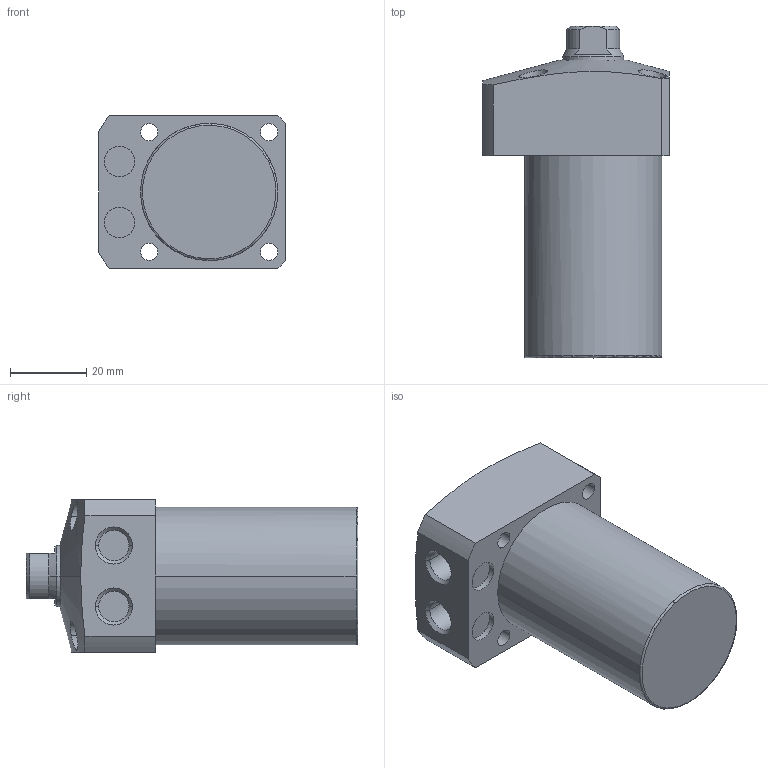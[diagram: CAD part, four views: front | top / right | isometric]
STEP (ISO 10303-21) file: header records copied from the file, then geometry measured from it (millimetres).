
FILE_DESCRIPTION((' '),'2;1');
FILE_NAME( 'TLL-036CA-045.STEP.stp', '2025-10-24T16:39:37', (' '), ('--- Datakit www.datakit.com---'), ' Datakit CrossCadWare V2024.1 Dec 21 2023', 'Mastercam 2025', ' ');
FILE_SCHEMA(('AUTOMOTIVE_DESIGN { 1 0 10303 214 1 1 1 1 }'));
Length unit declared in the file: millimetre
Products named in the file (1): TLL-036CA-045
Bounding box: 49 x 87 x 40 mm (x, y, z)
Volume: 95389.9 mm3; surface area: 16169.7 mm2
Topology: 1 solids, 1 shells, 72 faces, 209 edges, 148 vertices
Faces by surface type: cylinder 34, plane 22, cone 14, torus 2
Entity records: 4844 total; most frequent: CARTESIAN_POINT 2840, DIRECTION 430, ORIENTED_EDGE 414, EDGE_CURVE 207, AXIS2_PLACEMENT_3D 184, VERTEX_POINT 148, CIRCLE 111, EDGE_LOOP 91
